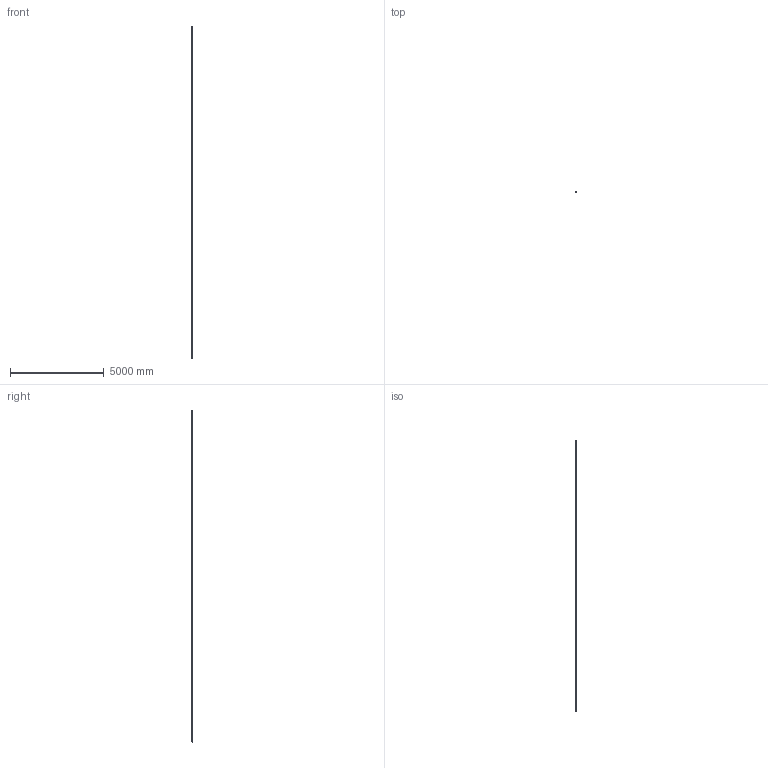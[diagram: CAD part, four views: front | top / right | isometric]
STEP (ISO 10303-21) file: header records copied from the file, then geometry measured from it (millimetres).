
FILE_DESCRIPTION(('Creo Elements/Direct Modeling STEP Export'),'2;1');
FILE_NAME('L-174.stp','2011-11-29T14:44:57',(''),(''),'Creo Elements/Direct Modeling STEP processor for AP214 (Solid Model)','Creo Elements/Direct Modeling 17.0C 05-Feb-2011 (C) Parametric Technology GmbH','');
FILE_SCHEMA(('AUTOMOTIVE_DESIGN { 1 0 10303 214 1 1 1 1 }'));
Length unit declared in the file: millimetre
Products named in the file (5): Modulos_intermedio_(FL-14).6; CABEZA; Modulo_der_(20-ET); Modulo_izq_(L-KT); L-174
Assembly tree (13 placements, depth 2):
  L-174
    Modulos_intermedio_(FL-14).6  x10
    Modulo_izq_(L-KT)
    Modulo_der_(20-ET)
    CABEZA
Bounding box: 51.5 x 87.95 x 17749.1 mm (x, y, z)
Volume: 39356074.7 mm3; surface area: 5218237.3 mm2
Topology: 34 solids, 144 shells, 8252 faces, 22923 edges, 14661 vertices
Faces by surface type: cylinder 3629, plane 3155, cone 626, torus 401, bspline 305, extrusion 110, sphere 26
Entity records: 130430 total; most frequent: CARTESIAN_POINT 38065, ORIENTED_EDGE 19494, DIRECTION 17447, EDGE_CURVE 9727, VERTEX_POINT 6307, AXIS2_PLACEMENT_3D 6207, VECTOR 5033, LINE 5013
